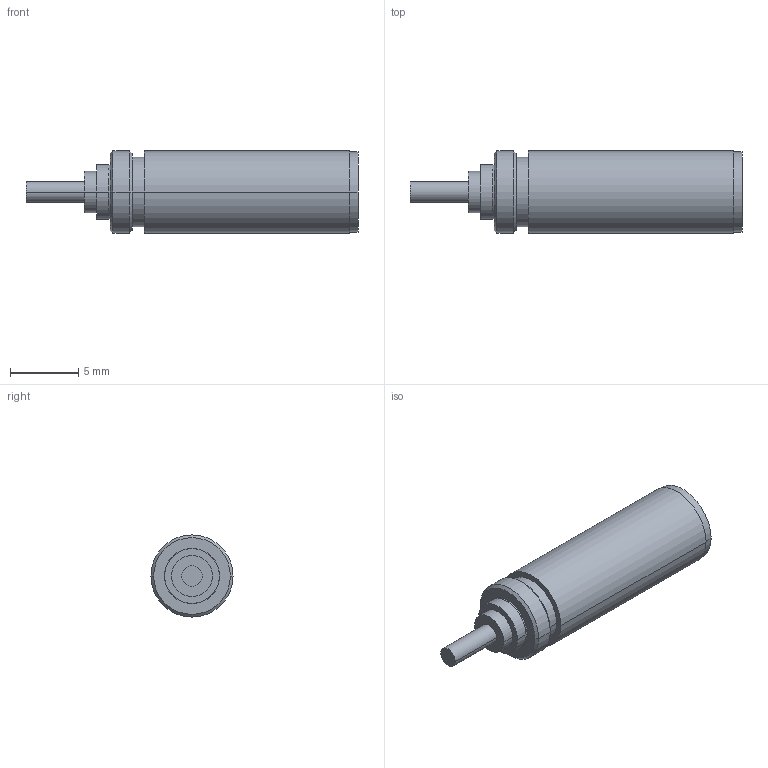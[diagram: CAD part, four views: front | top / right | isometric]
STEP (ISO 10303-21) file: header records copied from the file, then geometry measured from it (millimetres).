
FILE_DESCRIPTION((''),'2;1');
FILE_NAME('1928062','2016-10-04T',('mmagvisi'),(''),'CREO PARAMETRIC BY PTC INC, 2016050','CREO PARAMETRIC BY PTC INC, 2016050','');
FILE_SCHEMA(('CONFIG_CONTROL_DESIGN'));
Length unit declared in the file: millimetre
Products named in the file (1): 1928062
Bounding box: 24.25 x 6 x 6 mm (x, y, z)
Volume: 251.2 mm3; surface area: 682.3 mm2
Topology: 1 solids, 1 shells, 36 faces, 70 edges, 44 vertices
Faces by surface type: cylinder 18, plane 10, cone 8
Entity records: 1038 total; most frequent: DIRECTION 186, CARTESIAN_POINT 150, ORIENTED_EDGE 140, AXIS2_PLACEMENT_3D 80, EDGE_CURVE 70, COLOUR_RGB 58, VERTEX_POINT 44, EDGE_LOOP 44
